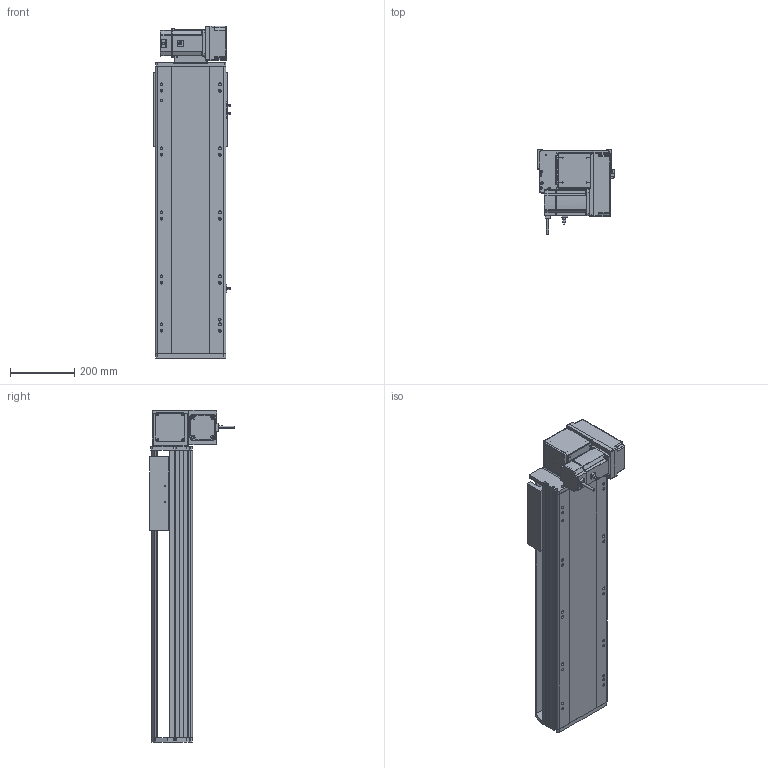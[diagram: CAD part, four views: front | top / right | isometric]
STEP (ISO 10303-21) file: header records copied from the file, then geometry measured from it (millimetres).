
FILE_DESCRIPTION (( 'STEP AP214' ), '1' );
FILE_NAME ('RTB22S-XX-550-RM-M75-C4.STEP', '2025-12-12T07:44:34', ( '' ), ( '' ), 'SwSTEP 2.0', 'SolidWorks 2018', '' );
FILE_SCHEMA (( 'AUTOMOTIVE_DESIGN' ));
Length unit declared in the file: millimetre
Products named in the file (14): RTB22S-GY-008-M75--萇儂啣^RTB22S-RM-々湍釱蚾饜_RTB22S-XX-XX-RM-M75-C4; RTB22S-GY-001耜裔^RTB22S-XX-XX-RM-M75-C4; RTH22-GY-013外置感应片^RTB22S-XX-XX-RM-M75-C4; RTB22S-GY-014--々湍釱^RTB22S-RM-々湍釱蚾饜_RTB22S-XX-XX-RM-M75-C4; RTB22S-GY-005P^RTB22S-RM-々湍釱蚾饜_RTB22S-XX-XX-RM-M75-C4; OMRON EE-SX672 传感器^RTB22S-XX-XX-RM-M75-C4; RTB22S-RM-々湍釱蚾饜^RTB22S-XX-XX-RM-M75-C4; RTB22S-GY-017P^RTB22S-RM-々湍釱蚾饜_RTB22S-XX-XX-RM-M75-C4; RTB22S-GY-007奻裔^RTB22S-XX-XX-RM-M75-C4; RTB22S-GY-018P^RTB22S-RM-々湍釱蚾饜_RTB22S-XX-XX-RM-M75-C4; RTB22S-L-004賑釱^RTB22S-XX-XX-RM-M75-C4; RTB22S-XX-550-RM-M75-C4; 750W萇儂^RTB22S-XX-XX-RM-M75-C4; RTB22S-L-011菁釱^RTB22S-XX-XX-RM-M75-C4
Assembly tree (16 placements, depth 3):
  RTB22S-XX-550-RM-M75-C4
    RTB22S-L-011菁釱^RTB22S-XX-XX-RM-M75-C4
    RTB22S-GY-001耜裔^RTB22S-XX-XX-RM-M75-C4
    750W萇儂^RTB22S-XX-XX-RM-M75-C4
    RTB22S-GY-007奻裔^RTB22S-XX-XX-RM-M75-C4
    RTB22S-L-004賑釱^RTB22S-XX-XX-RM-M75-C4
    RTH22-GY-013外置感应片^RTB22S-XX-XX-RM-M75-C4
    OMRON EE-SX672 传感器^RTB22S-XX-XX-RM-M75-C4  x3
    RTB22S-RM-々湍釱蚾饜^RTB22S-XX-XX-RM-M75-C4
      RTB22S-GY-014--々湍釱^RTB22S-RM-々湍釱蚾饜_RTB22S-XX-XX-RM-M75-C4
      RTB22S-GY-017P^RTB22S-RM-々湍釱蚾饜_RTB22S-XX-XX-RM-M75-C4  x2
      RTB22S-GY-005P^RTB22S-RM-々湍釱蚾饜_RTB22S-XX-XX-RM-M75-C4
      RTB22S-GY-008-M75--萇儂啣^RTB22S-RM-々湍釱蚾饜_RTB22S-XX-XX-RM-M75-C4
      RTB22S-GY-018P^RTB22S-RM-々湍釱蚾饜_RTB22S-XX-XX-RM-M75-C4
Bounding box: 238.5 x 264.7 x 1037.5 mm (x, y, z)
Volume: 16048101.1 mm3; surface area: 1691634.9 mm2
Topology: 15 solids, 15 shells, 1929 faces, 5236 edges, 3362 vertices
Faces by surface type: plane 909, cylinder 586, bspline 296, cone 126, sphere 8, torus 4
Entity records: 50794 total; most frequent: CARTESIAN_POINT 14728, ORIENTED_EDGE 7284, DIRECTION 6956, EDGE_CURVE 3642, AXIS2_PLACEMENT_3D 2434, VERTEX_POINT 2366, LINE 2088, VECTOR 2088
